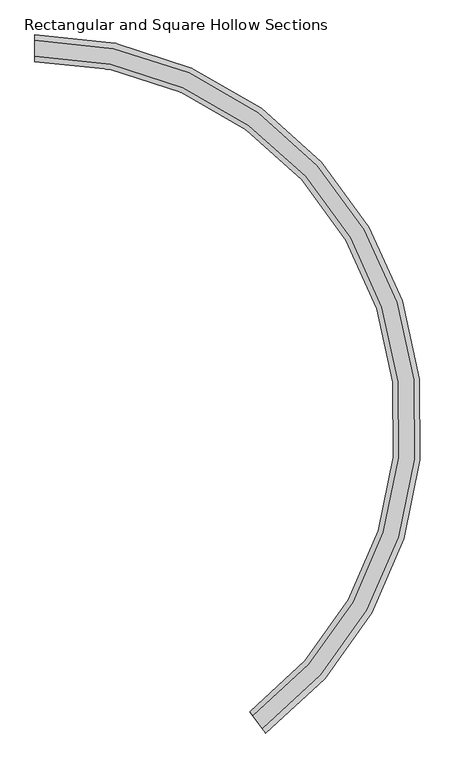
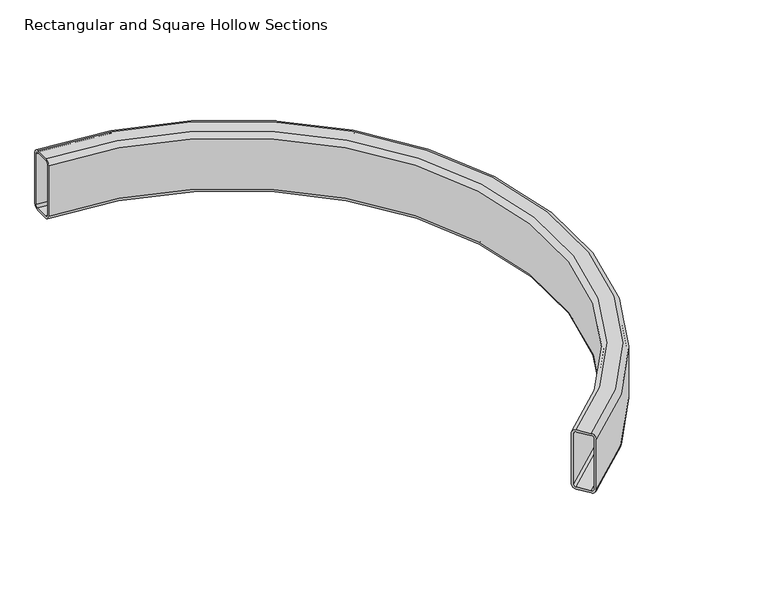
"""IFC4 building model written with IfcOpenShell, lengths in millimetres: beam geometry, Rectangular and Square Hollow Sections : TREC160x60x6."""

from ifc_helpers import new_model, si_unit, point, frame, origin, place, context, project, spatial, polyline, circle_curve, ellipse_curve, trimmed, source, transform, mapped, element, save
from ifc_brep_helpers import plane_surface, cylinder_surface, revolved_surface, advanced_brep


def rectangular_and_square_hollow_sections_41ca3201(model_context):
    return source(origin(), model_context, "Body", "AdvancedBrep", [
        advanced_brep(
        [(521.0121889, -1544.4378415, 68.0), (513.853998, -1534.8066264, 80.0), (492.3794252, -1505.9129814, 80.0), (485.2212342, -1496.2817664, 68.0), (485.2212342, -1496.2817664, -68.0), (492.3794252, -1505.9129814, -80.0), (513.853998, -1534.8066264, -80.0), (521.0121889, -1544.4378415, -68.0), (492.3794252, -1505.9129814, 74.0), (513.853998, -1534.8066264, 74.0), (517.4330934, -1539.6222339, 68.0), (517.4330934, -1539.6222339, -68.0), (513.853998, -1534.8066264, -74.0), (492.3794252, -1505.9129814, -74.0), (488.8003297, -1501.0973739, -68.0), (488.8003297, -1501.0973739, 68.0), (0.0, 30.0, 68.0), (0.0, 30.0, -68.0), (0.0, 18.0, -80.0), (0.0, -18.0, -80.0), (0.0, -30.0, -68.0), (0.0, -30.0, 68.0), (0.0, -18.0, 80.0), (0.0, 18.0, 80.0), (0.0, -18.0, 74.0), (0.0, -24.0, 68.0), (0.0, -24.0, -68.0), (0.0, -18.0, -74.0), (0.0, 18.0, -74.0), (0.0, 24.0, -68.0), (0.0, 24.0, 68.0), (0.0, 18.0, 74.0)],
        [
            (0, 1, circle_curve(frame((513.853998, -1534.8066264, 68.0), z_axis=(-0.8026012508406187, -0.5965159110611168, 0.0), x_axis=(-0.5965159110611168, 0.8026012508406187, 0.0)), 12.0)),
            (1, 2),
            (2, 3, circle_curve(frame((492.3794252, -1505.9129814, 68.0), z_axis=(-0.8026012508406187, -0.5965159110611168, 0.0), x_axis=(-0.5965159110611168, 0.8026012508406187, 0.0)), 12.0)),
            (3, 4),
            (4, 5, circle_curve(frame((492.3794252, -1505.9129814, -68.0), z_axis=(-0.8026012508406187, -0.5965159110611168, 0.0), x_axis=(-0.5965159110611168, 0.8026012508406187, 0.0)), 12.0)),
            (5, 6),
            (6, 7, circle_curve(frame((513.853998, -1534.8066264, -68.0), z_axis=(-0.8026012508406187, -0.5965159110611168, 0.0), x_axis=(-0.5965159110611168, 0.8026012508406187, 0.0)), 12.0)),
            (7, 0),
            (8, 9),
            (9, 10, circle_curve(frame((513.853998, -1534.8066264, 68.0), z_axis=(0.8026012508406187, 0.5965159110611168, 0.0), x_axis=(-0.5965159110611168, 0.8026012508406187, 0.0)), 6.0)),
            (10, 11),
            (11, 12, circle_curve(frame((513.853998, -1534.8066264, -68.0), z_axis=(0.8026012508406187, 0.5965159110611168, 0.0), x_axis=(-0.5965159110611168, 0.8026012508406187, 0.0)), 6.0)),
            (12, 13),
            (13, 14, circle_curve(frame((492.3794252, -1505.9129814, -68.0), z_axis=(0.8026012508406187, 0.5965159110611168, 0.0), x_axis=(-0.5965159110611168, 0.8026012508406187, 0.0)), 6.0)),
            (14, 15),
            (15, 8, circle_curve(frame((492.3794252, -1505.9129814, 68.0), z_axis=(0.8026012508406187, 0.5965159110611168, 0.0), x_axis=(-0.5965159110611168, 0.8026012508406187, 0.0)), 6.0)),
            (16, 17),
            (17, 18, circle_curve(frame((0.0, 18.0, -68.0), z_axis=(-1.0, 0.0, 0.0), x_axis=(0.0, -1.0, 0.0)), 12.0)),
            (18, 19),
            (19, 20, circle_curve(frame((0.0, -18.0, -68.0), z_axis=(-1.0, 0.0, 0.0), x_axis=(0.0, -1.0, 0.0)), 12.0)),
            (20, 21),
            (21, 22, circle_curve(frame((0.0, -18.0, 68.0), z_axis=(-1.0, 0.0, 0.0), x_axis=(0.0, -1.0, 0.0)), 12.0)),
            (22, 23),
            (23, 16, circle_curve(frame((0.0, 18.0, 68.0), z_axis=(-1.0, 0.0, 0.0), x_axis=(0.0, -1.0, 0.0)), 12.0)),
            (24, 25, circle_curve(frame((0.0, -18.0, 68.0), z_axis=(1.0, 0.0, 0.0), x_axis=(0.0, -1.0, 0.0)), 6.0)),
            (25, 26),
            (26, 27, circle_curve(frame((0.0, -18.0, -68.0), z_axis=(1.0, 0.0, 0.0), x_axis=(0.0, -1.0, 0.0)), 6.0)),
            (27, 28),
            (28, 29, circle_curve(frame((0.0, 18.0, -68.0), z_axis=(1.0, 0.0, 0.0), x_axis=(0.0, -1.0, 0.0)), 6.0)),
            (29, 30),
            (30, 31, circle_curve(frame((0.0, 18.0, 68.0), z_axis=(1.0, 0.0, 0.0), x_axis=(0.0, -1.0, 0.0)), 6.0)),
            (31, 24),
            (0, 16, circle_curve(frame((0.0, -843.4254682, 68.0), z_axis=(0.0, 0.0, 1.0), x_axis=(0.0, 1.0, 0.0)), 873.4254682)),
            (23, 1, circle_curve(frame((0.0, -843.4254682, 80.0), z_axis=(0.0, 0.0, -1.0), x_axis=(0.0, 1.0, 0.0)), 861.4254682)),
            (22, 2, circle_curve(frame((0.0, -843.4254682, 80.0), z_axis=(0.0, 0.0, -1.0), x_axis=(0.0, 1.0, 0.0)), 825.4254682)),
            (21, 3, circle_curve(frame((0.0, -843.4254682, 68.0), z_axis=(0.0, 0.0, -1.0), x_axis=(0.0, 1.0, 0.0)), 813.4254682)),
            (20, 4, circle_curve(frame((0.0, -843.4254682, -68.0), z_axis=(0.0, 0.0, -1.0), x_axis=(0.0, 1.0, 0.0)), 813.4254682)),
            (19, 5, circle_curve(frame((0.0, -843.4254682, -80.0), z_axis=(0.0, 0.0, -1.0), x_axis=(0.0, 1.0, 0.0)), 825.4254682)),
            (18, 6, circle_curve(frame((0.0, -843.4254682, -80.0), z_axis=(0.0, 0.0, -1.0), x_axis=(0.0, 1.0, 0.0)), 861.4254682)),
            (17, 7, circle_curve(frame((0.0, -843.4254682, -68.0), z_axis=(0.0, 0.0, -1.0), x_axis=(0.0, 1.0, 0.0)), 873.4254682)),
            (8, 24, circle_curve(frame((0.0, -843.4254682, 74.0), z_axis=(0.0, 0.0, 1.0), x_axis=(0.0, 1.0, 0.0)), 825.4254682)),
            (31, 9, circle_curve(frame((0.0, -843.4254682, 74.0), z_axis=(0.0, 0.0, -1.0), x_axis=(0.0, 1.0, 0.0)), 861.4254682)),
            (30, 10, circle_curve(frame((0.0, -843.4254682, 68.0), z_axis=(0.0, 0.0, -1.0), x_axis=(0.0, 1.0, 0.0)), 867.4254682)),
            (29, 11, circle_curve(frame((0.0, -843.4254682, -68.0), z_axis=(0.0, 0.0, -1.0), x_axis=(0.0, 1.0, 0.0)), 867.4254682)),
            (28, 12, circle_curve(frame((0.0, -843.4254682, -74.0), z_axis=(0.0, 0.0, -1.0), x_axis=(0.0, 1.0, 0.0)), 861.4254682)),
            (27, 13, circle_curve(frame((0.0, -843.4254682, -74.0), z_axis=(0.0, 0.0, -1.0), x_axis=(0.0, 1.0, 0.0)), 825.4254682)),
            (26, 14, circle_curve(frame((0.0, -843.4254682, -68.0), z_axis=(0.0, 0.0, -1.0), x_axis=(0.0, 1.0, 0.0)), 819.4254682)),
            (25, 15, circle_curve(frame((0.0, -843.4254682, 68.0), z_axis=(0.0, 0.0, -1.0), x_axis=(0.0, 1.0, 0.0)), 819.4254682)),
        ],
        [
            plane_surface(frame((503.1167116, -1520.3598039, 0.0), z_axis=(-0.8026012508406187, -0.5965159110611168, 0.0), x_axis=(0.0, 0.0, 1.0))),
            plane_surface(frame((0.0, 0.0, 0.0), z_axis=(-1.0, 0.0, 0.0), x_axis=(0.0, 0.0, 1.0))),
            revolved_surface(trimmed(ellipse_curve(frame((0.0, 18.0, 68.0), z_axis=(-1.0, 0.0, 0.0), x_axis=(0.0, -1.0, 0.0)), 12.0, 12.0), [point((0.0, 18.0, 80.0))], [point((0.0, 30.0, 68.0))], True, "CARTESIAN"), (0.0, -843.4254682, 0.0), (0.0, 0.0, -1.0)),
            plane_surface(frame((0.0, -843.4254682, 80.0), z_axis=(0.0, 0.0, 1.0), x_axis=(0.0, 1.0, 0.0))),
            revolved_surface(trimmed(ellipse_curve(frame((0.0, -18.0, 68.0), z_axis=(-1.0, 0.0, 0.0), x_axis=(0.0, -1.0, 0.0)), 12.0, 12.0), [point((0.0, -30.0, 68.0))], [point((0.0, -18.0, 80.0))], True, "CARTESIAN"), (0.0, -843.4254682, 0.0), (0.0, 0.0, -1.0)),
            revolved_surface(polyline([(0.0, -30.0, -68.0), (0.0, -30.0, 68.0)]), (0.0, -843.4254682, 0.0), (0.0, 0.0, -1.0)),
            revolved_surface(trimmed(ellipse_curve(frame((0.0, -18.0, -68.0), z_axis=(-1.0, 0.0, 0.0), x_axis=(0.0, -1.0, 0.0)), 12.0, 12.0), [point((0.0, -18.0, -80.0))], [point((0.0, -30.0, -68.0))], True, "CARTESIAN"), (0.0, -843.4254682, 0.0), (0.0, 0.0, -1.0)),
            plane_surface(frame((0.0, -843.4254682, -80.0), z_axis=(0.0, 0.0, -1.0), x_axis=(0.0, 1.0, 0.0))),
            revolved_surface(trimmed(ellipse_curve(frame((0.0, 18.0, -68.0), z_axis=(-1.0, 0.0, 0.0), x_axis=(0.0, -1.0, 0.0)), 12.0, 12.0), [point((0.0, 30.0, -68.0))], [point((0.0, 18.0, -80.0))], True, "CARTESIAN"), (0.0, -843.4254682, 0.0), (0.0, 0.0, -1.0)),
            cylinder_surface(frame((0.0, -843.4254682, 0.0), z_axis=(0.0, 0.0, -1.0), x_axis=(0.0, 1.0, 0.0)), 873.4254682),
            plane_surface(frame((0.0, -843.4254682, 74.0), z_axis=(0.0, 0.0, -1.0), x_axis=(0.0, 1.0, 0.0))),
            revolved_surface(trimmed(ellipse_curve(frame((0.0, 18.0, 68.0), z_axis=(1.0, 0.0, 0.0), x_axis=(0.0, -1.0, 0.0)), 6.0, 6.0), [point((0.0, 24.0, 68.0))], [point((0.0, 18.0, 74.0))], True, "CARTESIAN"), (0.0, -843.4254682, 0.0), (0.0, 0.0, -1.0)),
            revolved_surface(polyline([(0.0, 24.0, -68.0), (0.0, 24.0, 68.0)]), (0.0, -843.4254682, 0.0), (0.0, 0.0, -1.0)),
            revolved_surface(trimmed(ellipse_curve(frame((0.0, 18.0, -68.0), z_axis=(1.0, 0.0, 0.0), x_axis=(0.0, -1.0, 0.0)), 6.0, 6.0), [point((0.0, 18.0, -74.0))], [point((0.0, 24.0, -68.0))], True, "CARTESIAN"), (0.0, -843.4254682, 0.0), (0.0, 0.0, -1.0)),
            plane_surface(frame((0.0, -843.4254682, -74.0), z_axis=(0.0, 0.0, 1.0), x_axis=(0.0, 1.0, 0.0))),
            revolved_surface(trimmed(ellipse_curve(frame((0.0, -18.0, -68.0), z_axis=(1.0, 0.0, 0.0), x_axis=(0.0, -1.0, 0.0)), 6.0, 6.0), [point((0.0, -24.0, -68.0))], [point((0.0, -18.0, -74.0))], True, "CARTESIAN"), (0.0, -843.4254682, 0.0), (0.0, 0.0, -1.0)),
            cylinder_surface(frame((0.0, -843.4254682, 0.0), z_axis=(0.0, 0.0, -1.0), x_axis=(0.0, 1.0, 0.0)), 819.4254682),
            revolved_surface(trimmed(ellipse_curve(frame((0.0, -18.0, 68.0), z_axis=(1.0, 0.0, 0.0), x_axis=(0.0, -1.0, 0.0)), 6.0, 6.0), [point((0.0, -18.0, 74.0))], [point((0.0, -24.0, 68.0))], True, "CARTESIAN"), (0.0, -843.4254682, 0.0), (0.0, 0.0, -1.0)),
        ],
        [
            (0, [[1, 2, 3, 4, 5, 6, 7, 8], [9, 10, 11, 12, 13, 14, 15, 16]]),
            (1, [[17, 18, 19, 20, 21, 22, 23, 24], [25, 26, 27, 28, 29, 30, 31, 32]]),
            (2, [[-1, 33, -24, 34]]),
            (3, [[-2, -34, -23, 35]]),
            (4, [[-3, -35, -22, 36]]),
            (5, [[-4, -36, -21, 37]]),
            (6, [[-5, -37, -20, 38]]),
            (7, [[-6, -38, -19, 39]]),
            (8, [[-7, -39, -18, 40]]),
            (9, [[-8, -40, -17, -33]]),
            (10, [[-9, 41, -32, 42]]),
            (11, [[-10, -42, -31, 43]]),
            (12, [[-11, -43, -30, 44]]),
            (13, [[-12, -44, -29, 45]]),
            (14, [[-13, -45, -28, 46]]),
            (15, [[-14, -46, -27, 47]]),
            (16, [[-15, -47, -26, 48]]),
            (17, [[-16, -48, -25, -41]]),
        ],
    ),
    ])


if __name__ == "__main__":
    model = new_model("IFC4")
    model_context = context("Model", 3, world=origin())
    ifc_project = project(units=[si_unit("LENGTHUNIT", "METRE", prefix="MILLI")], contexts=[model_context])
    site = spatial("IfcSite", under=ifc_project)
    building = spatial("IfcBuilding", under=site)
    placement = place(None, origin())
    rectangular_and_square_hollow_sections_shape = rectangular_and_square_hollow_sections_41ca3201(model_context)
    element("IfcBeam", 1, ObjectType="Rectangular and Square Hollow Sections : TREC160x60x6", at=placement, inside=building, context=model_context, shape_type="MappedRepresentation", body=[
        mapped(rectangular_and_square_hollow_sections_shape, transform((0.0, 0.0, 0.0), x_axis=(1.0, 0.0, 0.0), y_axis=(0.0, 1.0, 0.0), z_axis=(0.0, 0.0, 1.0))),
    ])
    save(model, "model.ifc")
